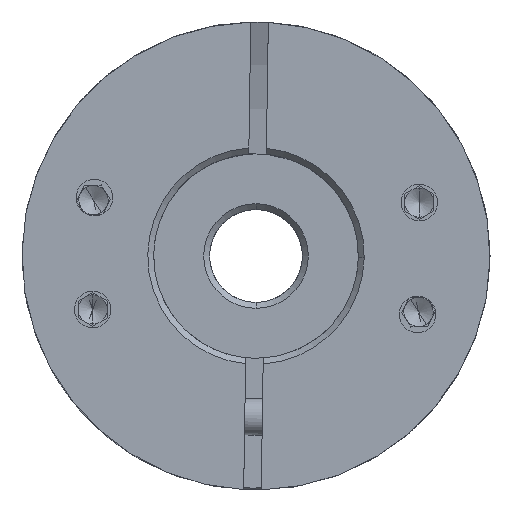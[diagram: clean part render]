
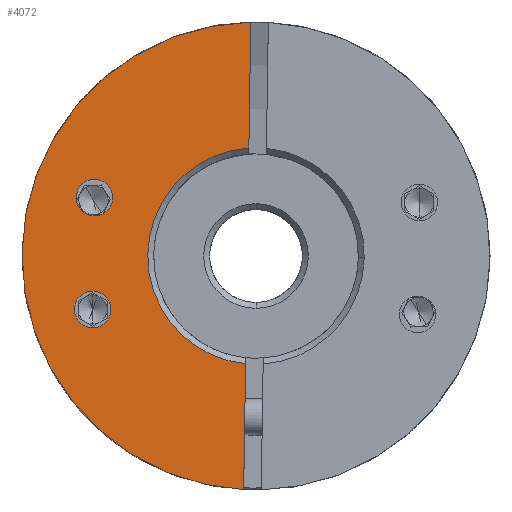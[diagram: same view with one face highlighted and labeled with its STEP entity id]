
A CAD part, front view. The second image highlights one B-rep face of the part: STEP entity #4072.
In plain terms, the highlighted planar face has unit normal (0, -1, 0).
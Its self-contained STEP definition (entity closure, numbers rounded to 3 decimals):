
#28 = VERTEX_POINT ( 'NONE', #9900 ) ;
#948 = DIRECTION ( 'NONE',  ( 0., -1., 0. ) ) ;
#980 = PLANE ( 'NONE',  #16325 ) ;
#1564 = CARTESIAN_POINT ( 'NONE',  ( -69.095, -19.411, -3.675 ) ) ;
#1866 = CARTESIAN_POINT ( 'NONE',  ( -75.176, -19.411, 0.243 ) ) ;
#1867 = EDGE_LOOP ( 'NONE', ( #22099, #17022 ) ) ;
#1967 = LINE ( 'NONE', #12104, #21187 ) ;
#2852 = DIRECTION ( 'NONE',  ( 0., -1., 0. ) ) ;
#3019 = AXIS2_PLACEMENT_3D ( 'NONE', #23714, #18401, #12630 ) ;
#3143 = DIRECTION ( 'NONE',  ( 1., 0., -0.015 ) ) ;
#3199 = CARTESIAN_POINT ( 'NONE',  ( -59.666, -19.411, 7.384 ) ) ;
#3359 = DIRECTION ( 'NONE',  ( 0., 1., 0. ) ) ;
#3732 = CIRCLE ( 'NONE', #10237, 1.25 ) ;
#3946 = VERTEX_POINT ( 'NONE', #15818 ) ;
#4072 = ADVANCED_FACE ( 'NONE', ( #20850, #5695, #13277 ), #980, .T. ) ;
#4332 = CARTESIAN_POINT ( 'NONE',  ( -60.021, -19.411, -15.978 ) ) ;
#4392 = VERTEX_POINT ( 'NONE', #4332 ) ;
#4415 = ORIENTED_EDGE ( 'NONE', *, *, #18792, .F. ) ;
#4646 = EDGE_CURVE ( 'NONE', #10106, #28, #21662, .T. ) ;
#5047 = CIRCLE ( 'NONE', #19140, 16. ) ;
#5695 = FACE_BOUND ( 'NONE', #22313, .T. ) ;
#5975 = DIRECTION ( 'NONE',  ( 1., 0., -0.015 ) ) ;
#6057 = DIRECTION ( 'NONE',  ( -0.015, 0., -1. ) ) ;
#6174 = CARTESIAN_POINT ( 'NONE',  ( -59.178, -19.411, 0. ) ) ;
#6205 = CARTESIAN_POINT ( 'NONE',  ( -70.345, -19.411, -3.656 ) ) ;
#6785 = CARTESIAN_POINT ( 'NONE',  ( -70.345, -19.411, -3.656 ) ) ;
#7711 = AXIS2_PLACEMENT_3D ( 'NONE', #12675, #3359, #18131 ) ;
#8195 = DIRECTION ( 'NONE',  ( 1., 0., -0.015 ) ) ;
#8828 = EDGE_CURVE ( 'NONE', #9673, #4392, #1967, .T. ) ;
#9001 = AXIS2_PLACEMENT_3D ( 'NONE', #6785, #21694, #12260 ) ;
#9673 = VERTEX_POINT ( 'NONE', #20858 ) ;
#9900 = CARTESIAN_POINT ( 'NONE',  ( -68.979, -19.411, 3.975 ) ) ;
#10106 = VERTEX_POINT ( 'NONE', #23332 ) ;
#10160 = CIRCLE ( 'NONE', #3019, 7.4 ) ;
#10237 = AXIS2_PLACEMENT_3D ( 'NONE', #6205, #13715, #5975 ) ;
#10298 = DIRECTION ( 'NONE',  ( 1., 0., -0.015 ) ) ;
#10789 = VECTOR ( 'NONE', #6057, 1000. ) ;
#11158 = CARTESIAN_POINT ( 'NONE',  ( -59.535, -19.411, 15.996 ) ) ;
#11367 = EDGE_CURVE ( 'NONE', #9673, #20600, #10160, .T. ) ;
#11437 = DIRECTION ( 'NONE',  ( 0., 1., 0. ) ) ;
#11544 = VERTEX_POINT ( 'NONE', #1866 ) ;
#12104 = CARTESIAN_POINT ( 'NONE',  ( -59.687, -19.411, 6.008 ) ) ;
#12260 = DIRECTION ( 'NONE',  ( 1., 0., -0.015 ) ) ;
#12630 = DIRECTION ( 'NONE',  ( 1., 0., -0.015 ) ) ;
#12666 = ORIENTED_EDGE ( 'NONE', *, *, #8828, .F. ) ;
#12675 = CARTESIAN_POINT ( 'NONE',  ( -70.229, -19.411, 3.994 ) ) ;
#12916 = ORIENTED_EDGE ( 'NONE', *, *, #11367, .T. ) ;
#13277 = FACE_BOUND ( 'NONE', #1867, .T. ) ;
#13319 = DIRECTION ( 'NONE',  ( 1., 0., -0.015 ) ) ;
#13345 = CIRCLE ( 'NONE', #15844, 16. ) ;
#13715 = DIRECTION ( 'NONE',  ( 0., 1., 0. ) ) ;
#13811 = ORIENTED_EDGE ( 'NONE', *, *, #4646, .T. ) ;
#15368 = VERTEX_POINT ( 'NONE', #11158 ) ;
#15397 = CARTESIAN_POINT ( 'NONE',  ( -59.178, -19.411, 0. ) ) ;
#15711 = DIRECTION ( 'NONE',  ( -0.015, 0., -1. ) ) ;
#15818 = CARTESIAN_POINT ( 'NONE',  ( -71.595, -19.411, -3.637 ) ) ;
#15844 = AXIS2_PLACEMENT_3D ( 'NONE', #6174, #948, #3143 ) ;
#16037 = ORIENTED_EDGE ( 'NONE', *, *, #17130, .T. ) ;
#16325 = AXIS2_PLACEMENT_3D ( 'NONE', #19988, #2852, #10298 ) ;
#16374 = VERTEX_POINT ( 'NONE', #1564 ) ;
#16638 = LINE ( 'NONE', #19036, #10789 ) ;
#17022 = ORIENTED_EDGE ( 'NONE', *, *, #21939, .T. ) ;
#17130 = EDGE_CURVE ( 'NONE', #11544, #4392, #5047, .T. ) ;
#17722 = CIRCLE ( 'NONE', #7711, 1.25 ) ;
#17755 = AXIS2_PLACEMENT_3D ( 'NONE', #22603, #11437, #13319 ) ;
#18131 = DIRECTION ( 'NONE',  ( 1., 0., -0.015 ) ) ;
#18401 = DIRECTION ( 'NONE',  ( 0., 1., 0. ) ) ;
#18792 = EDGE_CURVE ( 'NONE', #15368, #20600, #16638, .T. ) ;
#18858 = EDGE_LOOP ( 'NONE', ( #12666, #12916, #4415, #20255, #16037 ) ) ;
#19036 = CARTESIAN_POINT ( 'NONE',  ( -59.687, -19.411, 6.008 ) ) ;
#19140 = AXIS2_PLACEMENT_3D ( 'NONE', #15397, #19399, #8195 ) ;
#19399 = DIRECTION ( 'NONE',  ( 0., -1., 0. ) ) ;
#19988 = CARTESIAN_POINT ( 'NONE',  ( -59.178, -19.411, 0. ) ) ;
#20255 = ORIENTED_EDGE ( 'NONE', *, *, #21377, .T. ) ;
#20600 = VERTEX_POINT ( 'NONE', #3199 ) ;
#20672 = EDGE_CURVE ( 'NONE', #28, #10106, #17722, .T. ) ;
#20850 = FACE_OUTER_BOUND ( 'NONE', #18858, .T. ) ;
#20858 = CARTESIAN_POINT ( 'NONE',  ( -59.89, -19.411, -7.366 ) ) ;
#20954 = EDGE_CURVE ( 'NONE', #3946, #16374, #3732, .T. ) ;
#21187 = VECTOR ( 'NONE', #15711, 1000. ) ;
#21377 = EDGE_CURVE ( 'NONE', #15368, #11544, #13345, .T. ) ;
#21453 = CIRCLE ( 'NONE', #9001, 1.25 ) ;
#21662 = CIRCLE ( 'NONE', #17755, 1.25 ) ;
#21694 = DIRECTION ( 'NONE',  ( 0., 1., 0. ) ) ;
#21939 = EDGE_CURVE ( 'NONE', #16374, #3946, #21453, .T. ) ;
#22099 = ORIENTED_EDGE ( 'NONE', *, *, #20954, .T. ) ;
#22313 = EDGE_LOOP ( 'NONE', ( #13811, #23512 ) ) ;
#22603 = CARTESIAN_POINT ( 'NONE',  ( -70.229, -19.411, 3.994 ) ) ;
#23332 = CARTESIAN_POINT ( 'NONE',  ( -71.479, -19.411, 4.013 ) ) ;
#23512 = ORIENTED_EDGE ( 'NONE', *, *, #20672, .T. ) ;
#23714 = CARTESIAN_POINT ( 'NONE',  ( -59.178, -19.411, 0. ) ) ;
